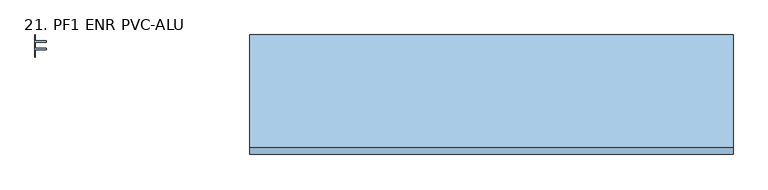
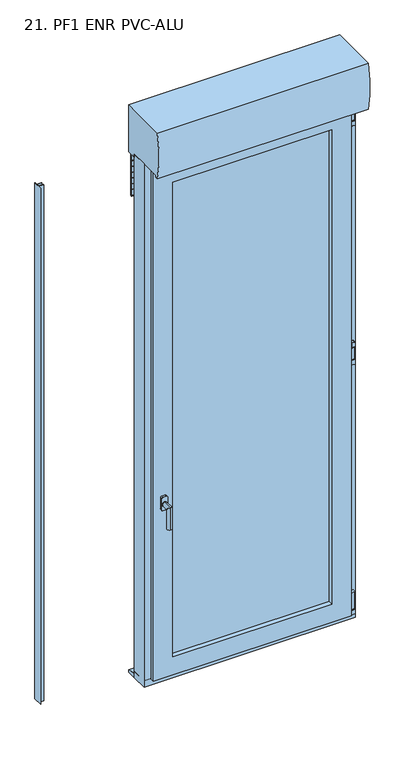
"""IFC4 building model written with IfcOpenShell, lengths in millimetres: window geometry, 21. PF1 ENR PVC-ALU : PF2 130X236 (LXH) cm."""

from ifc_helpers import new_model, si_unit, point, frame, frame_2d, origin, place, context, project, spatial, polyline, circle_curve, ellipse_curve, trimmed, segment, composite_curve, outline, extrude, faceted_brep, source, transform, mapped, element, save
from ifc_brep_helpers import plane_surface, cylinder_surface, advanced_brep


def window_21_pf1_enr_pvc_alu_f3458d36(model_context):
    return source(origin(), model_context, "Body", "SolidModel", [
        extrude(outline(composite_curve([segment(polyline([(1233.7215382, 426.56), (1233.7215382, 441.56), (1251.7279213, 441.56)]), True, "CONTINUOUS"), segment(trimmed(circle_curve(frame_2d((1251.7279213, 439.5663831)), 1.9936169), [point((1251.7279213, 441.56))], [point((1253.7215382, 439.5663831))], False, "CARTESIAN"), True, "CONTINUOUS"), segment(polyline([(1253.7215382, 439.5663831), (1253.7215382, 428.5276754)]), True, "CONTINUOUS"), segment(trimmed(circle_curve(frame_2d((1251.7538628, 428.5276754)), 1.9676754), [point((1253.7215382, 428.5276754))], [point((1251.7538628, 426.56))], False, "CARTESIAN"), True, "CONTINUOUS"), segment(polyline([(1251.7538628, 426.56), (1233.7215382, 426.56)]), True, "CONTINUOUS")], self_intersect=False)), frame((0.0, -115.0338923, 0.0), z_axis=(0.0, 1.0, 0.0), x_axis=(0.0, 0.0, 1.0)), (0.0, 0.0, 1.0), 15.0),
        extrude(outline(composite_curve([segment(trimmed(circle_curve(frame_2d((434.2805562, -107.5434807)), 5.0), [point((429.2805562, -107.5434807))], [point((439.2805562, -107.5434807))], False, "CARTESIAN"), True, "CONTINUOUS"), segment(trimmed(circle_curve(frame_2d((434.2805562, -107.5434807)), 5.0), [point((439.2805562, -107.5434807))], [point((429.2805562, -107.5434807))], False, "CARTESIAN"), True, "CONTINUOUS")], self_intersect=False)), frame((0.0, 0.0, 1173.7215382), z_axis=(0.0, 0.0, 1.0), x_axis=(1.0, 0.0, 0.0)), (0.0, 0.0, 1.0), 60.0),
        extrude(outline(composite_curve([segment(polyline([(421.56, -100.0434807), (439.6018237, -100.0434807)]), True, "CONTINUOUS"), segment(trimmed(circle_curve(frame_2d((439.6018237, -102.001657)), 1.9581763), [point((439.6018237, -100.0434807))], [point((441.56, -102.001657))], False, "CARTESIAN"), True, "CONTINUOUS"), segment(polyline([(441.56, -102.001657), (441.56, -113.0253033)]), True, "CONTINUOUS"), segment(trimmed(circle_curve(frame_2d((439.5418225, -113.0253033)), 2.0181775), [point((441.56, -113.0253033))], [point((439.5418225, -115.0434807))], False, "CARTESIAN"), True, "CONTINUOUS"), segment(polyline([(439.5418225, -115.0434807), (421.56, -115.0434807), (421.56, -100.0434807)]), True, "CONTINUOUS")], self_intersect=False)), frame((0.0, 0.0, 1179.448), z_axis=(0.0, 0.0, 1.0), x_axis=(1.0, 0.0, 0.0)), (0.0, 0.0, 1.0), 50.0),
        extrude(outline(composite_curve([segment(polyline([(1174.448, 441.7805562), (1174.448, 426.7805562), (1156.4572498, 426.7805562)]), True, "CONTINUOUS"), segment(trimmed(circle_curve(frame_2d((1156.4572498, 428.7898059)), 2.0092498), [point((1156.4572498, 426.7805562))], [point((1154.448, 428.7898059))], False, "CARTESIAN"), True, "CONTINUOUS"), segment(polyline([(1154.448, 428.7898059), (1154.448, 440.1303507)]), True, "CONTINUOUS"), segment(trimmed(circle_curve(frame_2d((1156.4216694, 439.8068867)), 2.0), [point((1154.448, 440.1303507))], [point((1156.0982054, 441.7805562))], False, "CARTESIAN"), True, "CONTINUOUS"), segment(polyline([(1156.0982054, 441.7805562), (1174.448, 441.7805562)]), True, "CONTINUOUS")], self_intersect=False)), frame((0.0, -115.0338923, 0.0), z_axis=(0.0, 1.0, 0.0), x_axis=(0.0, 0.0, 1.0)), (0.0, 0.0, 1.0), 15.0),
        extrude(outline(composite_curve([segment(polyline([(2310.8255382, 426.552), (2310.8255382, 441.552), (2328.8319213, 441.552)]), True, "CONTINUOUS"), segment(trimmed(circle_curve(frame_2d((2328.8319213, 439.5583831)), 1.9936169), [point((2328.8319213, 441.552))], [point((2330.8255382, 439.5583831))], False, "CARTESIAN"), True, "CONTINUOUS"), segment(polyline([(2330.8255382, 439.5583831), (2330.8255382, 428.5196754)]), True, "CONTINUOUS"), segment(trimmed(circle_curve(frame_2d((2328.8578628, 428.5196754)), 1.9676754), [point((2330.8255382, 428.5196754))], [point((2328.8578628, 426.552))], False, "CARTESIAN"), True, "CONTINUOUS"), segment(polyline([(2328.8578628, 426.552), (2310.8255382, 426.552)]), True, "CONTINUOUS")], self_intersect=False)), frame((0.0, -115.0338923, 0.0), z_axis=(0.0, 1.0, 0.0), x_axis=(0.0, 0.0, 1.0)), (0.0, 0.0, 1.0), 15.0),
        extrude(outline(composite_curve([segment(trimmed(circle_curve(frame_2d((434.2725562, -107.5434807)), 5.0), [point((429.2725562, -107.5434807))], [point((439.2725562, -107.5434807))], False, "CARTESIAN"), True, "CONTINUOUS"), segment(trimmed(circle_curve(frame_2d((434.2725562, -107.5434807)), 5.0), [point((439.2725562, -107.5434807))], [point((429.2725562, -107.5434807))], False, "CARTESIAN"), True, "CONTINUOUS")], self_intersect=False)), frame((0.0, 0.0, 2250.8255382), z_axis=(0.0, 0.0, 1.0), x_axis=(1.0, 0.0, 0.0)), (0.0, 0.0, 1.0), 60.0),
        extrude(outline(composite_curve([segment(polyline([(421.552, -100.0434807), (439.5938237, -100.0434807)]), True, "CONTINUOUS"), segment(trimmed(circle_curve(frame_2d((439.5938237, -102.001657)), 1.9581763), [point((439.5938237, -100.0434807))], [point((441.552, -102.001657))], False, "CARTESIAN"), True, "CONTINUOUS"), segment(polyline([(441.552, -102.001657), (441.552, -113.0253033)]), True, "CONTINUOUS"), segment(trimmed(circle_curve(frame_2d((439.5338225, -113.0253033)), 2.0181775), [point((441.552, -113.0253033))], [point((439.5338225, -115.0434807))], False, "CARTESIAN"), True, "CONTINUOUS"), segment(polyline([(439.5338225, -115.0434807), (421.552, -115.0434807), (421.552, -100.0434807)]), True, "CONTINUOUS")], self_intersect=False)), frame((0.0, 0.0, 2256.552), z_axis=(0.0, 0.0, 1.0), x_axis=(1.0, 0.0, 0.0)), (0.0, 0.0, 1.0), 50.0),
        extrude(outline(composite_curve([segment(polyline([(2251.552, 441.7725562), (2251.552, 426.7725562), (2233.5612498, 426.7725562)]), True, "CONTINUOUS"), segment(trimmed(circle_curve(frame_2d((2233.5612498, 428.7818059)), 2.0092498), [point((2233.5612498, 426.7725562))], [point((2231.552, 428.7818059))], False, "CARTESIAN"), True, "CONTINUOUS"), segment(polyline([(2231.552, 428.7818059), (2231.552, 440.1223507)]), True, "CONTINUOUS"), segment(trimmed(circle_curve(frame_2d((2233.5256694, 439.7988867)), 2.0), [point((2231.552, 440.1223507))], [point((2233.2022054, 441.7725562))], False, "CARTESIAN"), True, "CONTINUOUS"), segment(polyline([(2233.2022054, 441.7725562), (2251.552, 441.7725562)]), True, "CONTINUOUS")], self_intersect=False)), frame((0.0, -115.0338923, 0.0), z_axis=(0.0, 1.0, 0.0), x_axis=(0.0, 0.0, 1.0)), (0.0, 0.0, 1.0), 15.0),
        extrude(outline(composite_curve([segment(trimmed(circle_curve(frame_2d((434.2725562, -107.5434807)), 5.0), [point((429.2725562, -107.5434807))], [point((439.2725562, -107.5434807))], False, "CARTESIAN"), True, "CONTINUOUS"), segment(trimmed(circle_curve(frame_2d((434.2725562, -107.5434807)), 5.0), [point((439.2725562, -107.5434807))], [point((429.2725562, -107.5434807))], False, "CARTESIAN"), True, "CONTINUOUS")], self_intersect=False)), frame((0.0, 0.0, 48.2452297), z_axis=(0.0, 0.0, 1.0), x_axis=(1.0, 0.0, 0.0)), (0.0, 0.0, 1.0), 5.0),
        extrude(outline(composite_curve([segment(polyline([(48.2452297, 441.7725562), (48.2452297, 426.7725562), (30.2544795, 426.7725562)]), True, "CONTINUOUS"), segment(trimmed(circle_curve(frame_2d((30.2544795, 428.7818059)), 2.0092498), [point((30.2544795, 426.7725562))], [point((28.2452297, 428.7818059))], False, "CARTESIAN"), True, "CONTINUOUS"), segment(polyline([(28.2452297, 428.7818059), (28.2452297, 440.1223507)]), True, "CONTINUOUS"), segment(trimmed(circle_curve(frame_2d((30.2188991, 439.7988867)), 2.0), [point((28.2452297, 440.1223507))], [point((29.8954351, 441.7725562))], False, "CARTESIAN"), True, "CONTINUOUS"), segment(polyline([(29.8954351, 441.7725562), (48.2452297, 441.7725562)]), True, "CONTINUOUS")], self_intersect=False)), frame((0.0, -115.0338923, 0.0), z_axis=(0.0, 1.0, 0.0), x_axis=(0.0, 0.0, 1.0)), (0.0, 0.0, 1.0), 15.0),
        extrude(outline(composite_curve([segment(polyline([(421.552, -100.0434807), (439.5938237, -100.0434807)]), True, "CONTINUOUS"), segment(trimmed(circle_curve(frame_2d((439.5938237, -102.001657)), 1.9581763), [point((439.5938237, -100.0434807))], [point((441.552, -102.001657))], False, "CARTESIAN"), True, "CONTINUOUS"), segment(polyline([(441.552, -102.001657), (441.552, -113.0253033)]), True, "CONTINUOUS"), segment(trimmed(circle_curve(frame_2d((439.5338225, -113.0253033)), 2.0181775), [point((441.552, -113.0253033))], [point((439.5338225, -115.0434807))], False, "CARTESIAN"), True, "CONTINUOUS"), segment(polyline([(439.5338225, -115.0434807), (421.552, -115.0434807), (421.552, -100.0434807)]), True, "CONTINUOUS")], self_intersect=False)), frame((0.0, 0.0, 53.2452297), z_axis=(0.0, 0.0, 1.0), x_axis=(1.0, 0.0, 0.0)), (0.0, 0.0, 1.0), 75.0),
        advanced_brep(
        [(-371.504, -129.3239543, 851.448), (-386.504, -129.3239543, 851.448), (-391.504, -129.3239543, 846.448), (-391.504, -129.3239543, 796.448), (-386.504, -129.3239543, 791.448), (-371.504, -129.3239543, 791.448), (-366.504, -129.3239543, 796.448), (-366.504, -129.3239543, 846.448), (-378.7268127, -129.3239543, 829.2518349), (-378.7268127, -129.3239543, 809.2518349), (-371.504, -117.4674689, 851.448), (-366.504, -117.4674689, 846.448), (-366.504, -117.4674689, 796.448), (-371.504, -117.4674689, 791.448), (-386.504, -117.4674689, 791.448), (-391.504, -117.4674689, 796.448), (-391.504, -117.4674689, 846.448), (-386.504, -117.4674689, 851.448), (-378.7268127, -133.0531938, 809.2518349), (-378.7268127, -133.0531938, 829.2518349), (-378.7268127, -173.0531938, 829.2518349), (-378.7268127, -153.0531938, 809.2518349), (-378.7268127, -173.0531938, 729.2518349), (-378.7268127, -153.0531938, 729.2518349)],
        [
            (0, 1),
            (1, 2, circle_curve(frame((-386.504, -129.3239543, 846.448), z_axis=(0.0, -1.0, 0.0), x_axis=(-1.0, 0.0, 0.0)), 5.0)),
            (2, 3),
            (3, 4, circle_curve(frame((-386.504, -129.3239543, 796.448), z_axis=(0.0, -1.0, 0.0), x_axis=(-1.0, 0.0, 0.0)), 5.0)),
            (4, 5),
            (5, 6, circle_curve(frame((-371.504, -129.3239543, 796.448), z_axis=(0.0, -1.0, 0.0), x_axis=(-1.0, 0.0, 0.0)), 5.0)),
            (6, 7),
            (7, 0, circle_curve(frame((-371.504, -129.3239543, 846.448), z_axis=(0.0, -1.0, 0.0), x_axis=(-1.0, 0.0, 0.0)), 5.0)),
            (8, 9, circle_curve(frame((-378.7268127, -129.3239543, 819.2518349), z_axis=(0.0, 1.0, 0.0), x_axis=(0.0, 0.0, -1.0)), 10.0)),
            (9, 8, circle_curve(frame((-378.7268127, -129.3239543, 819.2518349), z_axis=(0.0, 1.0, 0.0), x_axis=(0.0, 0.0, -1.0)), 10.0)),
            (10, 11, circle_curve(frame((-371.504, -117.4674689, 846.448), z_axis=(0.0, 1.0, 0.0), x_axis=(-1.0, 0.0, 0.0)), 5.0)),
            (11, 12),
            (12, 13, circle_curve(frame((-371.504, -117.4674689, 796.448), z_axis=(0.0, 1.0, 0.0), x_axis=(-1.0, 0.0, 0.0)), 5.0)),
            (13, 14),
            (14, 15, circle_curve(frame((-386.504, -117.4674689, 796.448), z_axis=(0.0, 1.0, 0.0), x_axis=(-1.0, 0.0, 0.0)), 5.0)),
            (15, 16),
            (16, 17, circle_curve(frame((-386.504, -117.4674689, 846.448), z_axis=(0.0, 1.0, 0.0), x_axis=(-1.0, 0.0, 0.0)), 5.0)),
            (17, 10),
            (7, 11),
            (10, 0),
            (6, 12),
            (5, 13),
            (4, 14),
            (3, 15),
            (2, 16),
            (1, 17),
            (18, 19, circle_curve(frame((-378.7268127, -133.0531938, 819.2518349), z_axis=(0.0, -1.0, 0.0), x_axis=(0.0, 0.0, -1.0)), 10.0)),
            (19, 20),
            (20, 21, ellipse_curve(frame((-378.7268127, -163.0531938, 819.2518349), z_axis=(0.0, 0.7071067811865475, 0.7071067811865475), x_axis=(0.0, 0.7071067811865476, -0.7071067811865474)), 14.1421356, 10.0)),
            (21, 18),
            (19, 18, circle_curve(frame((-378.7268127, -133.0531938, 819.2518349), z_axis=(0.0, -1.0, 0.0), x_axis=(0.0, 0.0, -1.0)), 10.0)),
            (21, 20, ellipse_curve(frame((-378.7268127, -163.0531938, 819.2518349), z_axis=(0.0, 0.7071067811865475, 0.7071067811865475), x_axis=(0.0, 0.7071067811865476, -0.7071067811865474)), 14.1421356, 10.0)),
            (22, 23, circle_curve(frame((-378.7268127, -163.0531938, 729.2518349), z_axis=(0.0, 0.0, -1.0), x_axis=(0.0, 1.0, 0.0)), 10.0)),
            (23, 22, circle_curve(frame((-378.7268127, -163.0531938, 729.2518349), z_axis=(0.0, 0.0, -1.0), x_axis=(0.0, 1.0, 0.0)), 10.0)),
            (20, 22),
            (23, 21),
            (18, 9),
            (8, 19),
        ],
        [
            plane_surface(frame((-376.504, -129.3239543, 846.448), z_axis=(0.0, -1.0, 0.0), x_axis=(0.0, 0.0, -1.0))),
            plane_surface(frame((-376.504, -117.4674689, 846.448), z_axis=(0.0, 1.0, 0.0), x_axis=(0.0, 0.0, 1.0))),
            cylinder_surface(frame((-371.504, -129.3239543, 846.448), z_axis=(0.0, 1.0, 0.0), x_axis=(-1.0, 0.0, 0.0)), 5.0),
            plane_surface(frame((-366.504, -117.4674689, 846.448), z_axis=(1.0, 0.0, 0.0), x_axis=(0.0, -1.0, 0.0))),
            cylinder_surface(frame((-371.504, -129.3239543, 796.448), z_axis=(0.0, 1.0, 0.0), x_axis=(-1.0, 0.0, 0.0)), 5.0),
            plane_surface(frame((-371.504, -117.4674689, 791.448), z_axis=(0.0, 0.0, -1.0), x_axis=(0.0, -1.0, 0.0))),
            cylinder_surface(frame((-386.504, -129.3239543, 796.448), z_axis=(0.0, 1.0, 0.0), x_axis=(-1.0, 0.0, 0.0)), 5.0),
            plane_surface(frame((-391.504, -117.4674689, 796.448), z_axis=(-1.0, 0.0, 0.0), x_axis=(0.0, -1.0, 0.0))),
            cylinder_surface(frame((-386.504, -129.3239543, 846.448), z_axis=(0.0, 1.0, 0.0), x_axis=(-1.0, 0.0, 0.0)), 5.0),
            plane_surface(frame((-386.504, -117.4674689, 851.448), z_axis=(0.0, 0.0, 1.0), x_axis=(0.0, -1.0, 0.0))),
            cylinder_surface(frame((-378.7268127, -133.0531938, 819.2518349), z_axis=(0.0, 1.0, 0.0), x_axis=(0.0, 0.0, -1.0)), 10.0),
            plane_surface(frame((-366.504, -163.0531938, 729.2518349), z_axis=(0.0, 0.0, -1.0), x_axis=(1.0, 0.0, 0.0))),
            cylinder_surface(frame((-378.7268127, -163.0531938, 819.2518349), z_axis=(0.0, 0.0, 1.0), x_axis=(0.0, 1.0, 0.0)), 10.0),
            cylinder_surface(frame((-378.7268127, -129.3239543, 819.2518349), z_axis=(0.0, 1.0, 0.0), x_axis=(0.0, 0.0, -1.0)), 10.0),
        ],
        [
            (0, [[1, 2, 3, 4, 5, 6, 7, 8], [9, 10]]),
            (1, [[11, 12, 13, 14, 15, 16, 17, 18]]),
            (2, [[-8, 19, -11, 20]]),
            (3, [[-7, 21, -12, -19]]),
            (4, [[-6, 22, -13, -21]]),
            (5, [[-5, 23, -14, -22]]),
            (6, [[-4, 24, -15, -23]]),
            (7, [[-3, 25, -16, -24]]),
            (8, [[-2, 26, -17, -25]]),
            (9, [[-1, -20, -18, -26]]),
            (10, [[27, 28, 29, 30]]),
            (10, [[-28, 31, -30, 32]]),
            (11, [[33, 34]]),
            (12, [[-29, 35, -34, 36]]),
            (12, [[-32, -36, -33, -35]]),
            (13, [[-27, 37, -9, 38]]),
            (13, [[-31, -38, -10, -37]]),
        ],
    ),
        faceted_brep([(449.992, -28.9, 2360.0), (449.992, -100.02, 2360.0), (449.992, -100.02, 0.0), (449.992, -28.9, 0.0), (-450.008, -100.02, 2360.0), (-450.008, -100.02, 0.0), (413.416, -100.02, 36.576), (-413.432, -100.02, 36.576), (-413.432, -100.02, 2323.424), (413.416, -100.02, 2323.424), (-450.008, -28.9, 0.0), (-450.008, -28.9, 2360.0), (392.0903858, -28.9, 2302.0983858), (-392.1063858, -28.9, 2302.0983858), (-392.1063858, -28.9, 57.9016142), (392.0903858, -28.9, 57.9016142), (413.416, -44.648, 2323.424), (413.416, -44.648, 36.576), (-413.432, -44.648, 2323.424), (-413.432, -44.648, 36.576), (392.0903858, -44.648, 57.9016142), (-392.1063858, -44.648, 57.9016142), (-392.1063858, -44.648, 2302.0983858), (392.0903858, -44.648, 2302.0983858)], [[[0, 1, 2, 3]], [[1, 4, 5, 2], [6, 7, 8, 9]], [[3, 2, 5, 10]], [[3, 10, 11, 0], [12, 13, 14, 15]], [[9, 16, 17, 6]], [[16, 18, 19, 17], [20, 21, 22, 23]], [[6, 17, 19, 7]], [[23, 12, 15, 20]], [[20, 15, 14, 21]], [[10, 5, 4, 11]], [[7, 19, 18, 8]], [[21, 14, 13, 22]], [[11, 4, 1, 0]], [[8, 18, 16, 9]], [[22, 13, 12, 23]]]),
        faceted_brep([(-450.0, -100.02, 2360.0), (-450.0, -28.9, 2360.0), (-450.0, -28.9, 0.0), (-450.0, -100.02, 0.0), (450.0, -28.9, 2360.0), (450.0, -28.9, 0.0), (-392.0983858, -28.9, 57.9016142), (392.0983858, -28.9, 57.9016142), (392.0983858, -28.9, 2302.0983858), (-392.0983858, -28.9, 2302.0983858), (450.0, -100.02, 0.0), (450.0, -100.02, 2360.0), (-413.424, -100.02, 2323.424), (413.424, -100.02, 2323.424), (413.424, -100.02, 36.576), (-413.424, -100.02, 36.576), (-413.424, -44.648, 2323.424), (-413.424, -44.648, 36.576), (413.424, -44.648, 36.576), (413.424, -44.648, 2323.424), (-392.0983858, -44.648, 2302.0983858), (392.0983858, -44.648, 2302.0983858), (392.0983858, -44.648, 57.9016142), (-392.0983858, -44.648, 57.9016142)], [[[0, 1, 2, 3]], [[1, 4, 5, 2], [6, 7, 8, 9]], [[3, 2, 5, 10]], [[3, 10, 11, 0], [12, 13, 14, 15]], [[16, 12, 15, 17]], [[17, 15, 14, 18]], [[17, 18, 19, 16], [20, 21, 22, 23]], [[9, 20, 23, 6]], [[6, 23, 22, 7]], [[10, 5, 4, 11]], [[18, 14, 13, 19]], [[7, 22, 21, 8]], [[11, 4, 1, 0]], [[19, 13, 12, 16]], [[8, 21, 20, 9]]]),
        faceted_brep([(-421.56, -119.3239543, 28.448), (-421.56, -100.0434807, 28.448), (421.552, -100.0434807, 28.448), (421.552, -119.3239543, 28.448), (421.552, -100.0434807, 2331.552), (421.552, -119.3239543, 2331.552), (-421.56, -100.0434807, 2331.552), (401.232, -100.0434807, 2311.232), (-401.24, -100.0434807, 2311.232), (-401.24, -100.0434807, 48.768), (401.232, -100.0434807, 48.768), (-421.56, -119.3239543, 2331.552), (339.3505043, -119.3239543, 110.6494957), (-339.3585043, -119.3239543, 110.6494957), (-339.3585043, -119.3239543, 2249.3505043), (339.3505043, -119.3239543, 2249.3505043), (-339.3585043, -100.019954, 110.6494957), (339.3505043, -100.019954, 110.6494957), (339.3505043, -100.019954, 2249.3505043), (361.6086701, -100.019954, 88.3913299), (-361.6166701, -100.019954, 88.3913299), (-361.6166701, -100.019954, 2271.6086701), (361.6086701, -100.019954, 2271.6086701), (-339.3585043, -100.019954, 2249.3505043), (-361.6166701, -48.2039543, 88.3913299), (361.6086701, -48.2039543, 88.3913299), (361.6086701, -48.2039543, 2271.6086701), (392.0983858, -48.2039543, 57.9016142), (-392.1063858, -48.2039543, 57.9016142), (-392.1063858, -48.2039543, 2302.0983858), (392.0983858, -48.2039543, 2302.0983858), (-361.6166701, -48.2039543, 2271.6086701), (-392.1063858, -44.648, 57.9016142), (392.0983858, -44.648, 57.9016142), (392.0983858, -44.648, 2302.0983858), (401.232, -44.648, 48.768), (-401.24, -44.648, 48.768), (-401.24, -44.648, 2311.232), (401.232, -44.648, 2311.232), (-392.1063858, -44.648, 2302.0983858)], [[[0, 1, 2, 3]], [[3, 2, 4, 5]], [[2, 1, 6, 4], [7, 8, 9, 10]], [[5, 11, 0, 3], [12, 13, 14, 15]], [[16, 13, 12, 17]], [[17, 12, 15, 18]], [[19, 20, 21, 22], [18, 23, 16, 17]], [[24, 20, 19, 25]], [[25, 19, 22, 26]], [[27, 28, 29, 30], [26, 31, 24, 25]], [[32, 28, 27, 33]], [[33, 27, 30, 34]], [[35, 36, 37, 38], [34, 39, 32, 33]], [[9, 36, 35, 10]], [[10, 35, 38, 7]], [[11, 6, 1, 0]], [[23, 14, 13, 16]], [[31, 21, 20, 24]], [[39, 29, 28, 32]], [[8, 37, 36, 9]], [[5, 4, 6, 11]], [[34, 30, 29, 39]], [[7, 38, 37, 8]], [[18, 15, 14, 23]], [[26, 22, 21, 31]]]),
        extrude(outline(polyline([(353.392, -47.9552512), (353.392, -51.9821328), (-353.408, -51.9821328), (-353.408, -47.9552512), (353.392, -47.9552512)])), frame((0.0, 0.0, 96.5824883), z_axis=(0.0, 0.0, 1.0), x_axis=(1.0, 0.0, 0.0)), (0.0, 0.0, 1.0), 2166.8350233),
        extrude(outline(polyline([(353.392, -96.019954), (353.392, -100.019954), (-353.408, -100.019954), (-353.408, -96.019954), (353.392, -96.019954)])), frame((0.0, 0.0, 96.5824883), z_axis=(0.0, 0.0, 1.0), x_axis=(1.0, 0.0, 0.0)), (0.0, 0.0, 1.0), 2166.8350233),
        extrude(outline(polyline([(353.392, -71.9786213), (353.392, -75.9786213), (-353.408, -75.9786213), (-353.408, -71.9786213), (353.392, -71.9786213)])), frame((0.0, 0.0, 96.5824883), z_axis=(0.0, 0.0, 1.0), x_axis=(1.0, 0.0, 0.0)), (0.0, 0.0, 1.0), 2166.8350233),
        faceted_brep([(361.6086701, -48.2039543, 2271.6086701), (361.6086701, -100.019954, 2271.6086701), (361.6086701, -100.019954, 88.3913299), (361.6086701, -48.2039543, 88.3913299), (-361.6166701, -100.019954, 2271.6086701), (-361.6166701, -100.019954, 88.3913299), (353.4175117, -100.019954, 96.5824883), (-353.4255117, -100.019954, 96.5824883), (-353.4255117, -100.019954, 2263.4175117), (353.4175117, -100.019954, 2263.4175117), (-361.6166701, -48.2039543, 88.3913299), (-386.5594701, -48.2039543, 2296.5514701), (-386.5594701, -48.2039543, 63.4485299), (386.5514701, -48.2039543, 63.4485299), (386.5514701, -48.2039543, 2296.5514701), (-361.6166701, -48.2039543, 2271.6086701), (386.5514701, -28.7475756, 2296.5514701), (386.5514701, -28.7475756, 63.4485299), (-386.5594701, -28.7475756, 63.4485299), (-386.5594701, -28.7475756, 2296.5514701), (-335.3473386, -28.7475756, 2245.3393386), (-335.3473386, -28.7475756, 114.6606614), (335.3393386, -28.7475756, 114.6606614), (335.3393386, -28.7475756, 2245.3393386), (353.4175117, -96.019954, 2263.4175117), (353.4175117, -96.019954, 96.5824883), (-353.4255117, -96.019954, 2263.4175117), (-353.4255117, -96.019954, 96.5824883), (339.5240492, -96.019954, 110.4759508), (-339.5320492, -96.019954, 110.4759508), (-339.5320492, -96.019954, 2249.5240492), (339.5240492, -96.019954, 2249.5240492), (353.4175117, -75.9786213, 2263.4175117), (353.4175117, -71.9786213, 2263.4175117), (353.4175117, -71.9786213, 96.5824883), (353.4175117, -75.9786213, 96.5824883), (-353.4255117, -71.9786213, 2263.4175117), (-353.4255117, -71.9786213, 96.5824883), (336.1974041, -71.9786213, 113.8025959), (-336.2054041, -71.9786213, 113.8025959), (-336.2054041, -71.9786213, 2246.1974041), (336.1974041, -71.9786213, 2246.1974041), (-353.4255117, -75.9786213, 96.5824883), (-353.4255117, -75.9786213, 2263.4175117), (-339.5320492, -75.9786213, 2249.5240492), (-339.5320492, -75.9786213, 110.4759508), (339.5240492, -75.9786213, 110.4759508), (339.5240492, -75.9786213, 2249.5240492), (335.3393386, -47.9821328, 2245.3393386), (335.3393386, -47.9821328, 114.6606614), (-335.3473386, -47.9821328, 114.6606614), (-353.4255117, -47.9821328, 2263.4175117), (-353.4255117, -47.9821328, 96.5824883), (353.4175117, -47.9821328, 96.5824883), (353.4175117, -47.9821328, 2263.4175117), (-335.3473386, -47.9821328, 2245.3393386), (353.4175117, -51.9821328, 2263.4175117), (353.4175117, -51.9821328, 96.5824883), (-353.4255117, -51.9821328, 96.5824883), (-353.4255117, -51.9821328, 2263.4175117), (-336.2054041, -51.9821328, 2246.1974041), (-336.2054041, -51.9821328, 113.8025959), (336.1974041, -51.9821328, 113.8025959), (336.1974041, -51.9821328, 2246.1974041)], [[[0, 1, 2, 3]], [[4, 5, 2, 1], [6, 7, 8, 9]], [[3, 2, 5, 10]], [[11, 12, 13, 14], [3, 10, 15, 0]], [[16, 14, 13, 17]], [[17, 13, 12, 18]], [[17, 18, 19, 16], [20, 21, 22, 23]], [[9, 24, 25, 6]], [[26, 27, 25, 24], [28, 29, 30, 31]], [[6, 25, 27, 7]], [[32, 33, 34, 35]], [[36, 37, 34, 33], [38, 39, 40, 41]], [[35, 34, 37, 42]], [[35, 42, 43, 32], [44, 45, 46, 47]], [[31, 47, 46, 28]], [[28, 46, 45, 29]], [[48, 23, 22, 49]], [[49, 22, 21, 50]], [[51, 52, 53, 54], [49, 50, 55, 48]], [[56, 54, 53, 57]], [[57, 53, 52, 58]], [[57, 58, 59, 56], [60, 61, 62, 63]], [[41, 63, 62, 38]], [[38, 62, 61, 39]], [[29, 45, 44, 30]], [[7, 27, 26, 8]], [[10, 5, 4, 15]], [[18, 12, 11, 19]], [[50, 21, 20, 55]], [[58, 52, 51, 59]], [[39, 61, 60, 40]], [[42, 37, 36, 43]], [[30, 44, 47, 31]], [[8, 26, 24, 9]], [[15, 4, 1, 0]], [[19, 11, 14, 16]], [[55, 20, 23, 48]], [[59, 51, 54, 56]], [[40, 60, 63, 41]], [[32, 43, 36, 33]]]),
        extrude(outline(composite_curve([segment(polyline([(-186.3991192, 2350.3409737), (-197.3316724, 2350.3409737)]), True, "CONTINUOUS"), segment(trimmed(circle_curve(frame_2d((189.1050523, 2453.6204869)), 400.0), [point((-197.3316724, 2350.3409737))], [point((-197.3316724, 2556.9))], False, "CARTESIAN"), True, "CONTINUOUS"), segment(polyline([(-197.3316724, 2556.9), (13.0999994, 2556.9), (13.0999994, 2346.0216226), (-4.9499979, 2346.0216226), (-4.9499979, 2344.2216225), (-2.7215215, 2344.2216225), (-2.7215215, 2319.9791617), (-4.9499979, 2319.9791617), (-4.9499979, 2318.1791616), (-2.7215215, 2318.1791616), (-2.7215215, 2293.9367008), (-4.9499979, 2293.9367008), (-4.9499979, 2292.1367006), (-2.7215215, 2292.1367006), (-2.7215215, 2267.8942398), (-4.9499979, 2267.8942398), (-4.9499979, 2266.0942397), (-2.7215215, 2266.0942397), (-2.7215215, 2241.8517789), (-4.9499979, 2241.8517789), (-4.9499979, 2240.0517788), (-2.7215215, 2240.0517788), (-2.7215215, 2215.809318), (-4.9499979, 2215.809318), (-4.9499979, 2214.0093179), (-2.7215215, 2214.0093179), (-2.7215215, 2189.7668571), (-4.9499979, 2189.7668571), (-4.9499979, 2187.966857), (-2.7215215, 2187.966857), (-2.7215215, 2163.7243961), (-4.9499979, 2163.7243961), (-4.9499979, 2161.9243963), (-3.044091, 2161.9243963), (-3.044091, 2158.977424), (-6.4, 2155.6232688), (-9.8999992, 2158.9774251), (-9.8999992, 2161.9243963), (-7.7499979, 2161.9243963), (-7.7499979, 2163.7243961), (-9.9999979, 2163.7243961), (-9.9999979, 2187.9668572), (-7.7499979, 2187.9668572), (-7.7499979, 2189.7668571), (-9.9999979, 2189.7668571), (-9.9999979, 2214.0093181), (-7.7499979, 2214.0093181), (-7.7499979, 2215.809318), (-9.9999979, 2215.809318), (-9.9999979, 2240.051779), (-7.7499979, 2240.051779), (-7.7499979, 2241.8517789), (-9.9999979, 2241.8517789), (-9.9999979, 2266.09424), (-7.7499979, 2266.09424), (-7.7499979, 2267.8942398), (-9.9999979, 2267.8942398), (-9.9999979, 2292.1367009), (-7.7499979, 2292.1367009), (-7.7499979, 2293.9367008), (-9.9999979, 2293.9367008), (-9.9999979, 2318.1791618), (-7.7499979, 2318.1791618), (-7.7499979, 2319.9791617), (-9.9999979, 2319.9791617), (-9.9999979, 2344.2216227), (-7.7499979, 2344.2216227), (-7.7499979, 2346.0216226), (-28.9, 2346.0216226), (-28.9, 2360.0), (-186.3991192, 2360.0), (-186.3991192, 2350.3409737)]), True, "CONTINUOUS")], self_intersect=False)), frame((-450.008, 0.0, 0.0), z_axis=(1.0, 0.0, 0.0), x_axis=(0.0, 1.0, 0.0)), (0.0, 0.0, 1.0), 900.0),
        extrude(outline(polyline([(-100.02, 30.0), (-28.9, 30.0), (-28.9, 20.0), (13.1, 10.0), (13.1, 0.0), (-100.02, 0.0), (-100.02, 30.0)])), frame((-450.008, 0.0, 0.0), z_axis=(1.0, 0.0, 0.0), x_axis=(0.0, 1.0, 0.0)), (0.0, 0.0, 1.0), 900.008),
        extrude(outline(polyline([(449.0, 13.1), (449.992, 13.1), (449.992, -28.9), (449.0, -28.9), (449.0, -14.9), (429.0, -14.9), (429.0, -11.9), (449.0, -11.9), (449.0, -0.9), (429.0, -0.9), (429.0, 2.1), (449.0, 2.1), (449.0, 13.1)])), frame((0.0, 0.0, 20.0), z_axis=(0.0, 0.0, 1.0), x_axis=(1.0, 0.0, 0.0)), (0.0, 0.0, 1.0), 2326.0216226),
        extrude(outline(polyline([(-849.0, 13.1), (-849.0, 2.1), (-829.0, 2.1), (-829.0, -0.9), (-849.0, -0.9), (-849.0, -11.9), (-829.0, -11.9), (-829.0, -14.9), (-849.0, -14.9), (-849.0, -28.9), (-849.992, -28.9), (-849.992, 13.1), (-849.0, 13.1)])), frame((0.0, 0.0, 20.0), z_axis=(0.0, 0.0, 1.0), x_axis=(1.0, 0.0, 0.0)), (0.0, 0.0, 1.0), 2326.0216226),
    ])


if __name__ == "__main__":
    model = new_model("IFC4")
    model_context = context("Model", 3, world=origin())
    ifc_project = project(units=[si_unit("LENGTHUNIT", "METRE", prefix="MILLI")], contexts=[model_context])
    site = spatial("IfcSite", under=ifc_project)
    building = spatial("IfcBuilding", under=site)
    placement = place(None, origin())
    window_21_pf1_enr_pvc_alu_shape = window_21_pf1_enr_pvc_alu_f3458d36(model_context)
    element("IfcWindow", 1, ObjectType="21. PF1 ENR PVC-ALU : PF2 130X236 (LXH) cm", at=placement, inside=building, context=model_context, shape_type="MappedRepresentation", body=[
        mapped(window_21_pf1_enr_pvc_alu_shape, transform((0.0, 0.0, 0.0), x_axis=(1.0, 0.0, 0.0), y_axis=(0.0, 1.0, 0.0), z_axis=(0.0, 0.0, 1.0))),
    ])
    save(model, "model.ifc")
